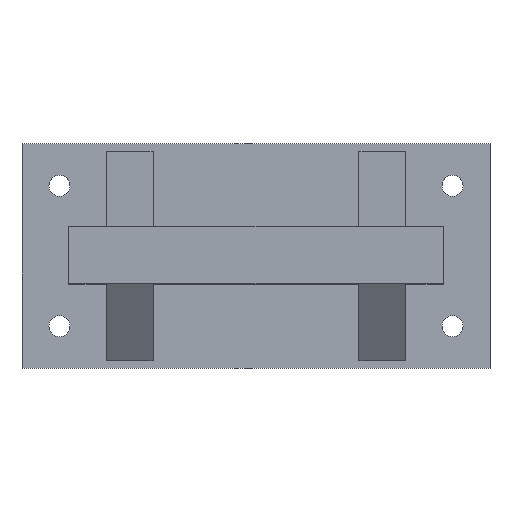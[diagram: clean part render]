
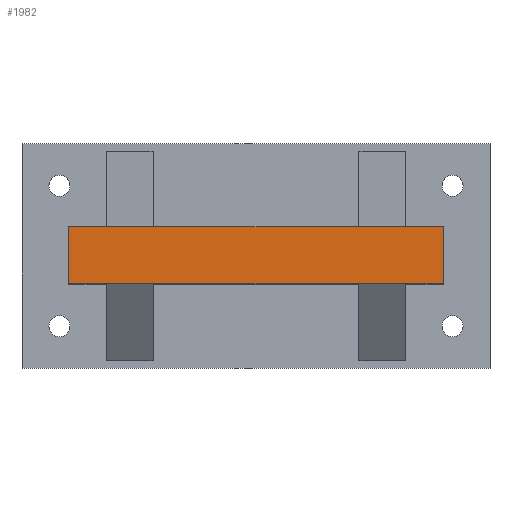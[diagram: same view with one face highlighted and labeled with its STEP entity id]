
A CAD part, top view. The second image highlights one B-rep face of the part: STEP entity #1982.
In plain terms, the highlighted planar face has unit normal (0, 0, 1).
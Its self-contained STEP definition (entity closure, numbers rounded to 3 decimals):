
#698 = PLANE('',#699);
#699 = AXIS2_PLACEMENT_3D('',#700,#701,#702);
#700 = CARTESIAN_POINT('',(-40.,-6.,0.));
#701 = DIRECTION('',(1.,0.,0.));
#702 = DIRECTION('',(0.,0.,1.));
#724 = PLANE('',#725);
#725 = AXIS2_PLACEMENT_3D('',#726,#727,#728);
#726 = CARTESIAN_POINT('',(-40.,6.,0.));
#727 = DIRECTION('',(0.,1.,0.));
#728 = DIRECTION('',(0.,0.,1.));
#948 = PLANE('',#949);
#949 = AXIS2_PLACEMENT_3D('',#950,#951,#952);
#950 = CARTESIAN_POINT('',(40.,-6.,0.));
#951 = DIRECTION('',(1.,0.,0.));
#952 = DIRECTION('',(0.,0.,1.));
#974 = PLANE('',#975);
#975 = AXIS2_PLACEMENT_3D('',#976,#977,#978);
#976 = CARTESIAN_POINT('',(-40.,-6.,0.));
#977 = DIRECTION('',(0.,1.,0.));
#978 = DIRECTION('',(0.,0.,1.));
#1188 = VERTEX_POINT('',#1189);
#1189 = CARTESIAN_POINT('',(-40.,-6.,125.));
#1212 = VERTEX_POINT('',#1213);
#1213 = CARTESIAN_POINT('',(-40.,6.,125.));
#1234 = EDGE_CURVE('',#1188,#1212,#1235,.T.);
#1235 = SURFACE_CURVE('',#1236,(#1240,#1247),.PCURVE_S1.);
#1236 = LINE('',#1237,#1238);
#1237 = CARTESIAN_POINT('',(-40.,-6.,125.));
#1238 = VECTOR('',#1239,1.);
#1239 = DIRECTION('',(0.,1.,0.));
#1240 = PCURVE('',#698,#1241);
#1241 = DEFINITIONAL_REPRESENTATION('',(#1242),#1246);
#1242 = LINE('',#1243,#1244);
#1243 = CARTESIAN_POINT('',(125.,0.));
#1244 = VECTOR('',#1245,1.);
#1245 = DIRECTION('',(0.,-1.));
#1246 = ( GEOMETRIC_REPRESENTATION_CONTEXT(2) 
PARAMETRIC_REPRESENTATION_CONTEXT() REPRESENTATION_CONTEXT('2D SPACE',''
  ) );
#1247 = PCURVE('',#1248,#1253);
#1248 = PLANE('',#1249);
#1249 = AXIS2_PLACEMENT_3D('',#1250,#1251,#1252);
#1250 = CARTESIAN_POINT('',(-40.,-6.,125.));
#1251 = DIRECTION('',(0.,0.,1.));
#1252 = DIRECTION('',(1.,0.,0.));
#1253 = DEFINITIONAL_REPRESENTATION('',(#1254),#1258);
#1254 = LINE('',#1255,#1256);
#1255 = CARTESIAN_POINT('',(0.,0.));
#1256 = VECTOR('',#1257,1.);
#1257 = DIRECTION('',(0.,1.));
#1258 = ( GEOMETRIC_REPRESENTATION_CONTEXT(2) 
PARAMETRIC_REPRESENTATION_CONTEXT() REPRESENTATION_CONTEXT('2D SPACE',''
  ) );
#1264 = VERTEX_POINT('',#1265);
#1265 = CARTESIAN_POINT('',(40.,-6.,125.));
#1412 = EDGE_CURVE('',#1188,#1264,#1413,.T.);
#1413 = SURFACE_CURVE('',#1414,(#1418,#1425),.PCURVE_S1.);
#1414 = LINE('',#1415,#1416);
#1415 = CARTESIAN_POINT('',(-40.,-6.,125.));
#1416 = VECTOR('',#1417,1.);
#1417 = DIRECTION('',(1.,0.,0.));
#1418 = PCURVE('',#974,#1419);
#1419 = DEFINITIONAL_REPRESENTATION('',(#1420),#1424);
#1420 = LINE('',#1421,#1422);
#1421 = CARTESIAN_POINT('',(125.,0.));
#1422 = VECTOR('',#1423,1.);
#1423 = DIRECTION('',(0.,1.));
#1424 = ( GEOMETRIC_REPRESENTATION_CONTEXT(2) 
PARAMETRIC_REPRESENTATION_CONTEXT() REPRESENTATION_CONTEXT('2D SPACE',''
  ) );
#1425 = PCURVE('',#1248,#1426);
#1426 = DEFINITIONAL_REPRESENTATION('',(#1427),#1431);
#1427 = LINE('',#1428,#1429);
#1428 = CARTESIAN_POINT('',(0.,0.));
#1429 = VECTOR('',#1430,1.);
#1430 = DIRECTION('',(1.,0.));
#1431 = ( GEOMETRIC_REPRESENTATION_CONTEXT(2) 
PARAMETRIC_REPRESENTATION_CONTEXT() REPRESENTATION_CONTEXT('2D SPACE',''
  ) );
#1619 = VERTEX_POINT('',#1620);
#1620 = CARTESIAN_POINT('',(40.,6.,125.));
#1641 = EDGE_CURVE('',#1264,#1619,#1642,.T.);
#1642 = SURFACE_CURVE('',#1643,(#1647,#1654),.PCURVE_S1.);
#1643 = LINE('',#1644,#1645);
#1644 = CARTESIAN_POINT('',(40.,-6.,125.));
#1645 = VECTOR('',#1646,1.);
#1646 = DIRECTION('',(0.,1.,0.));
#1647 = PCURVE('',#948,#1648);
#1648 = DEFINITIONAL_REPRESENTATION('',(#1649),#1653);
#1649 = LINE('',#1650,#1651);
#1650 = CARTESIAN_POINT('',(125.,0.));
#1651 = VECTOR('',#1652,1.);
#1652 = DIRECTION('',(0.,-1.));
#1653 = ( GEOMETRIC_REPRESENTATION_CONTEXT(2) 
PARAMETRIC_REPRESENTATION_CONTEXT() REPRESENTATION_CONTEXT('2D SPACE',''
  ) );
#1654 = PCURVE('',#1248,#1655);
#1655 = DEFINITIONAL_REPRESENTATION('',(#1656),#1660);
#1656 = LINE('',#1657,#1658);
#1657 = CARTESIAN_POINT('',(80.,0.));
#1658 = VECTOR('',#1659,1.);
#1659 = DIRECTION('',(0.,1.));
#1660 = ( GEOMETRIC_REPRESENTATION_CONTEXT(2) 
PARAMETRIC_REPRESENTATION_CONTEXT() REPRESENTATION_CONTEXT('2D SPACE',''
  ) );
#1792 = EDGE_CURVE('',#1212,#1619,#1793,.T.);
#1793 = SURFACE_CURVE('',#1794,(#1798,#1805),.PCURVE_S1.);
#1794 = LINE('',#1795,#1796);
#1795 = CARTESIAN_POINT('',(-40.,6.,125.));
#1796 = VECTOR('',#1797,1.);
#1797 = DIRECTION('',(1.,0.,0.));
#1798 = PCURVE('',#724,#1799);
#1799 = DEFINITIONAL_REPRESENTATION('',(#1800),#1804);
#1800 = LINE('',#1801,#1802);
#1801 = CARTESIAN_POINT('',(125.,0.));
#1802 = VECTOR('',#1803,1.);
#1803 = DIRECTION('',(0.,1.));
#1804 = ( GEOMETRIC_REPRESENTATION_CONTEXT(2) 
PARAMETRIC_REPRESENTATION_CONTEXT() REPRESENTATION_CONTEXT('2D SPACE',''
  ) );
#1805 = PCURVE('',#1248,#1806);
#1806 = DEFINITIONAL_REPRESENTATION('',(#1807),#1811);
#1807 = LINE('',#1808,#1809);
#1808 = CARTESIAN_POINT('',(0.,12.));
#1809 = VECTOR('',#1810,1.);
#1810 = DIRECTION('',(1.,0.));
#1811 = ( GEOMETRIC_REPRESENTATION_CONTEXT(2) 
PARAMETRIC_REPRESENTATION_CONTEXT() REPRESENTATION_CONTEXT('2D SPACE',''
  ) );
#1982 = ADVANCED_FACE('',(#1983),#1248,.T.);
#1983 = FACE_BOUND('',#1984,.T.);
#1984 = EDGE_LOOP('',(#1985,#1986,#1987,#1988));
#1985 = ORIENTED_EDGE('',*,*,#1234,.F.);
#1986 = ORIENTED_EDGE('',*,*,#1412,.T.);
#1987 = ORIENTED_EDGE('',*,*,#1641,.T.);
#1988 = ORIENTED_EDGE('',*,*,#1792,.F.);
